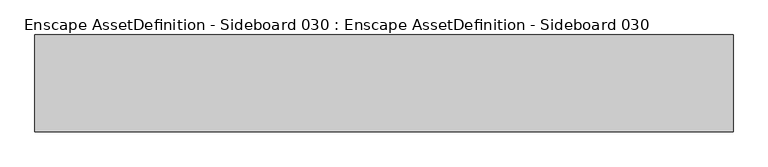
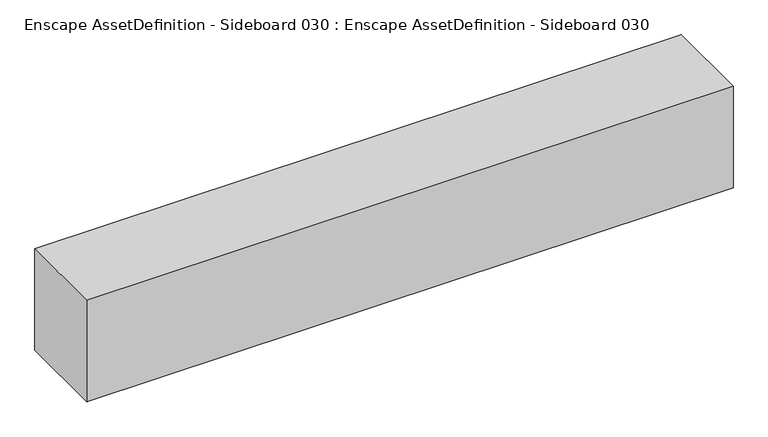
"""IFC4 building model written with IfcOpenShell, lengths in millimetres: geographic element geometry, Enscape AssetDefinition - Sideboard 030 : Enscape AssetDefinition - Sideboard 030."""

from ifc_helpers import new_model, si_unit, origin, place, context, project, spatial, triangles, source, transform, mapped, element, save


def enscape_assetdefinition_sideboard_030_enscape_9a6f2bb5(model_context):
    return source(origin(), model_context, "Body", "Tessellation", [
        triangles([(1217.577788, 168.8006341, 0.0), (1217.577788, -168.8016151, 0.0), (1217.577788, 168.8006341, 404.0907054), (-1217.577788, 168.8006341, 404.0907054), (-1217.577788, -168.8016151, 404.0907054), (-1217.577788, -168.8016151, 0.0), (1217.577788, -168.8016151, 404.0907054), (-1217.577788, 168.8006341, 0.0)], [[5, 4, 8], [8, 6, 5], [4, 3, 1], [1, 8, 4], [3, 7, 2], [2, 1, 3], [7, 5, 6], [6, 2, 7], [3, 4, 5], [5, 7, 3], [1, 2, 6], [6, 8, 1]]),
    ])


if __name__ == "__main__":
    model = new_model("IFC4")
    model_context = context("Model", 3, world=origin())
    ifc_project = project(units=[si_unit("LENGTHUNIT", "METRE", prefix="MILLI")], contexts=[model_context])
    site = spatial("IfcSite", under=ifc_project)
    building = spatial("IfcBuilding", under=site)
    placement = place(None, origin())
    enscape_assetdefinition_sideboard_030_enscape_shape = enscape_assetdefinition_sideboard_030_enscape_9a6f2bb5(model_context)
    element("IfcGeographicElement", 1, ObjectType="Enscape AssetDefinition - Sideboard 030 : Enscape AssetDefinition - Sideboard 030", at=placement, inside=building, context=model_context, shape_type="MappedRepresentation", body=[
        mapped(enscape_assetdefinition_sideboard_030_enscape_shape, transform((0.0, 0.0, 0.0), x_axis=(1.0, 0.0, 0.0), y_axis=(0.0, 1.0, 0.0), z_axis=(0.0, 0.0, 1.0))),
    ])
    save(model, "model.ifc")
